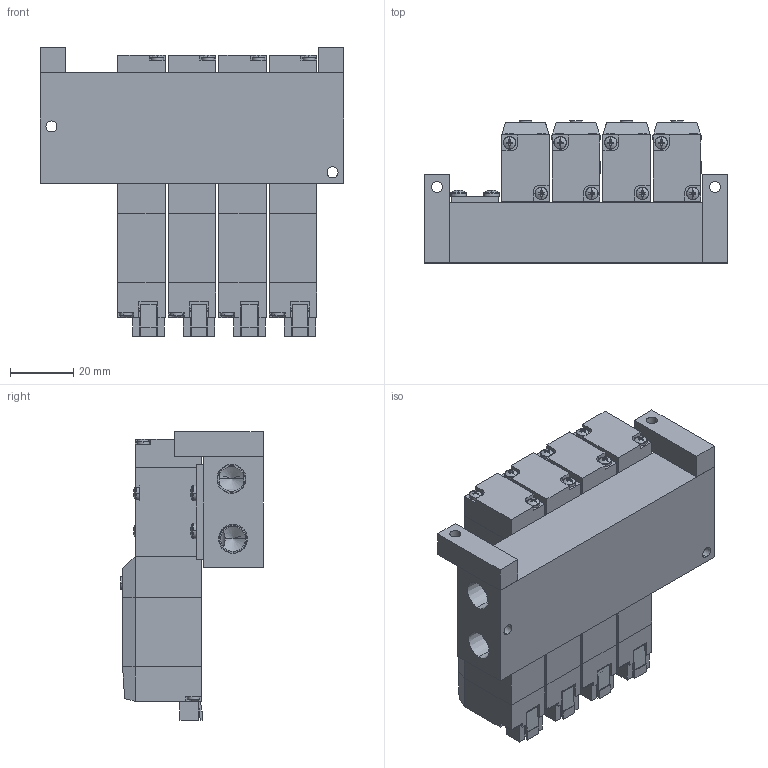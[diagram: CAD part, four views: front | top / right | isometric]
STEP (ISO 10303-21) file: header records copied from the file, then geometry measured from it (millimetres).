
FILE_DESCRIPTION (( 'STEP AP203' ), '1' );
FILE_NAME ('MFS#-PD5-M5-B-SP.STEP', '2016-02-04T03:31:11', ( 'Sam Lin' ), ( '' ), 'SwSTEP 2.0', 'SolidWorks 2013', '' );
FILE_SCHEMA (( 'CONFIG_CONTROL_DESIGN' ));
Length unit declared in the file: metre
Products named in the file (13): PC5-6; PC5-7; MFS-02; PC5-8; ISO 7045 - M2.5 x 25; PC5-10; PC5-2; MFS#-PD5-M5-B; ISO 7045 - M2 x 10; MFS#-PD5-M5-B-SP; PC5-3; PC5-5; PC-MARK
Assembly tree (60 placements, depth 2):
  MFS#-PD5-M5-B-SP
    MFS-02
    ISO 7045 - M2.5 x 25  x10
    PC5-2  x4
    ISO 7045 - M2 x 10  x16
    PC5-3  x4
    PC5-5  x4
    PC-MARK  x4
    PC5-6  x4
    PC5-7  x4
    PC5-8  x4
    PC5-10  x4
    MFS#-PD5-M5-B
Bounding box: 96 x 45 x 91.5 mm (x, y, z)
Volume: 176948.3 mm3; surface area: 68395 mm2
Topology: 90 solids, 90 shells, 2183 faces, 5384 edges, 3344 vertices
Faces by surface type: plane 1303, cylinder 370, cone 322, bspline 188
Entity records: 15726 total; most frequent: CARTESIAN_POINT 2806, DIRECTION 2159, ORIENTED_EDGE 2062, EDGE_CURVE 1031, AXIS2_PLACEMENT_3D 743, VECTOR 673, LINE 673, VERTEX_POINT 668
